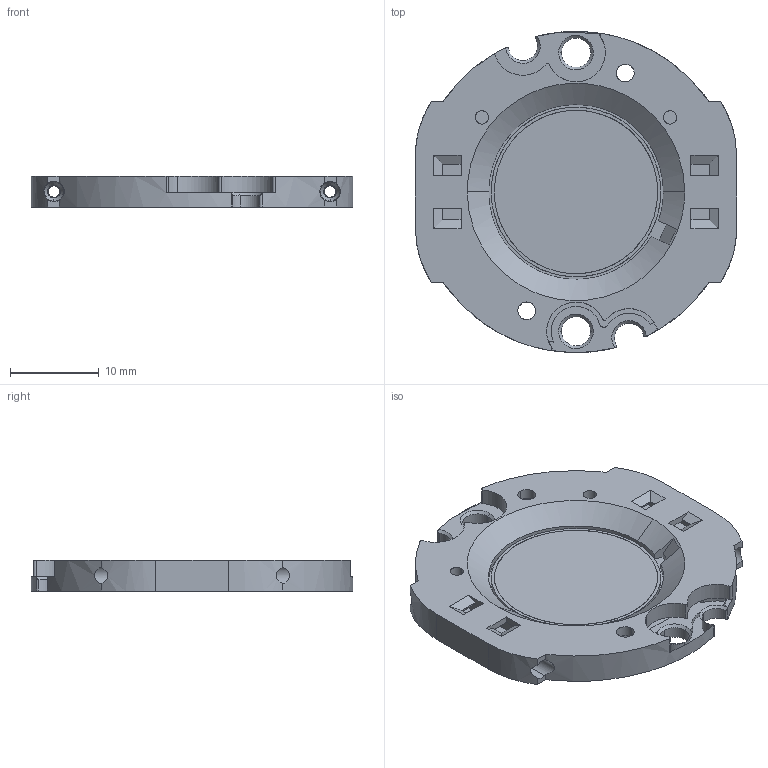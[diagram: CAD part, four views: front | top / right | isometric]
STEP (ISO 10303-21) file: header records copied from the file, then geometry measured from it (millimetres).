
FILE_DESCRIPTION (( 'STEP AP214' ), '1' );
FILE_NAME ('Bridgelux-VeroSE18-M-STP-17-000020.STEP', '2016-11-04T13:01:31', ( '' ), ( '' ), 'SwSTEP 2.0', 'SolidWorks 2016', '' );
FILE_SCHEMA (( 'AUTOMOTIVE_DESIGN' ));
Length unit declared in the file: millimetre
Products named in the file (1): Bridgelux-VeroSE18-M-STP-17-000020
Bounding box: 36.2 x 36.19 x 3.6 mm (x, y, z)
Volume: 2270 mm3; surface area: 3685.1 mm2
Topology: 1 solids, 1 shells, 238 faces, 654 edges, 426 vertices
Faces by surface type: plane 112, cylinder 88, bspline 38
Entity records: 10382 total; most frequent: CARTESIAN_POINT 5598, ORIENTED_EDGE 1308, B_SPLINE_CURVE_WITH_KNOTS 654, EDGE_CURVE 654, VERTEX_POINT 426, DIRECTION 402, EDGE_LOOP 274, ADVANCED_FACE 238
